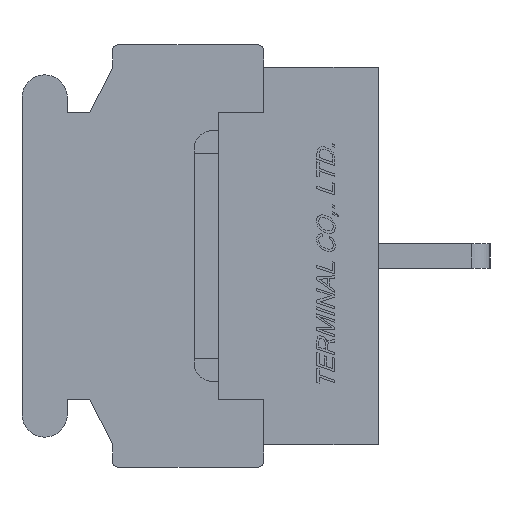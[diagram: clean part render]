
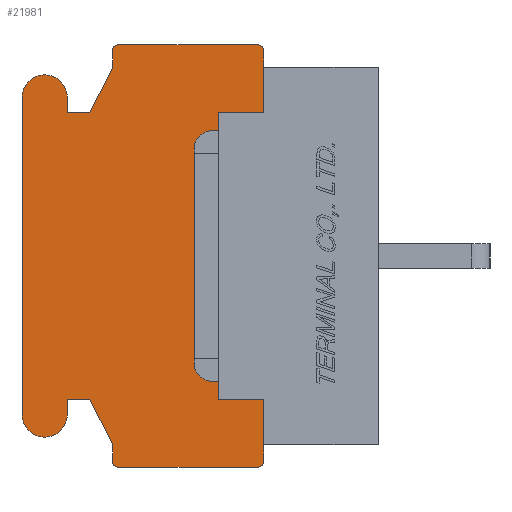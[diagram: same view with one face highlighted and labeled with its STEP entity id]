
A CAD part, left-side view. The second image highlights one B-rep face of the part: STEP entity #21981.
In plain terms, the highlighted planar face has unit normal (-1, 0, 0).
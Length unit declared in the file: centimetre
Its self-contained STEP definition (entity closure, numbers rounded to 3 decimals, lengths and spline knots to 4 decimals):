
#943=PLANE('',#35763);
#2076=VECTOR('',#23824,1.);
#2471=VECTOR('',#24352,1.);
#2474=VECTOR('',#24356,1.);
#2476=VECTOR('',#24359,1.);
#2477=VECTOR('',#24361,1.);
#2478=VECTOR('',#24363,1.);
#2479=VECTOR('',#24366,1.);
#2480=VECTOR('',#24369,1.);
#2481=VECTOR('',#24370,1.);
#2482=VECTOR('',#24371,1.);
#2483=VECTOR('',#24372,1.);
#2484=VECTOR('',#24375,1.);
#2485=VECTOR('',#24378,1.);
#2486=VECTOR('',#24379,1.);
#2487=VECTOR('',#24380,1.);
#2488=VECTOR('',#24381,1.);
#2489=VECTOR('',#24384,1.);
#2490=VECTOR('',#24387,1.);
#4506=LINE('',#29558,#2076);
#4901=LINE('',#31043,#2471);
#4904=LINE('',#31049,#2474);
#4906=LINE('',#31053,#2476);
#4907=LINE('',#31055,#2477);
#4908=LINE('',#31057,#2478);
#4909=LINE('',#31061,#2479);
#4910=LINE('',#31065,#2480);
#4911=LINE('',#31067,#2481);
#4912=LINE('',#31069,#2482);
#4913=LINE('',#31071,#2483);
#4914=LINE('',#31075,#2484);
#4915=LINE('',#31079,#2485);
#4916=LINE('',#31081,#2486);
#4917=LINE('',#31083,#2487);
#4918=LINE('',#31085,#2488);
#4919=LINE('',#31089,#2489);
#4920=LINE('',#31093,#2490);
#6875=VERTEX_POINT('',#29557);
#6876=VERTEX_POINT('',#29559);
#7210=VERTEX_POINT('',#31042);
#7211=VERTEX_POINT('',#31044);
#7212=VERTEX_POINT('',#31048);
#7213=VERTEX_POINT('',#31050);
#7214=VERTEX_POINT('',#31058);
#7215=VERTEX_POINT('',#31060);
#7216=VERTEX_POINT('',#31062);
#7217=VERTEX_POINT('',#31064);
#7218=VERTEX_POINT('',#31066);
#7219=VERTEX_POINT('',#31068);
#7220=VERTEX_POINT('',#31070);
#7221=VERTEX_POINT('',#31072);
#7222=VERTEX_POINT('',#31074);
#7223=VERTEX_POINT('',#31076);
#7224=VERTEX_POINT('',#31078);
#7225=VERTEX_POINT('',#31080);
#7226=VERTEX_POINT('',#31082);
#7227=VERTEX_POINT('',#31084);
#7228=VERTEX_POINT('',#31086);
#7229=VERTEX_POINT('',#31088);
#7230=VERTEX_POINT('',#31090);
#7231=VERTEX_POINT('',#31092);
#8578=CIRCLE('',#35764,0.02);
#8579=CIRCLE('',#35765,0.02);
#8580=CIRCLE('',#35766,0.075);
#8581=CIRCLE('',#35767,0.075);
#8582=CIRCLE('',#35768,0.02);
#8583=CIRCLE('',#35769,0.02);
#9737=EDGE_CURVE('',#6876,#6875,#4506,.T.);
#10238=EDGE_CURVE('',#7211,#7210,#4901,.T.);
#10241=EDGE_CURVE('',#7213,#7212,#4904,.T.);
#10243=EDGE_CURVE('',#7212,#6876,#4906,.T.);
#10244=EDGE_CURVE('',#6875,#7211,#4907,.T.);
#10245=EDGE_CURVE('',#7214,#7210,#4908,.T.);
#10246=EDGE_CURVE('',#7215,#7214,#8578,.T.);
#10247=EDGE_CURVE('',#7216,#7215,#4909,.T.);
#10248=EDGE_CURVE('',#7217,#7216,#8579,.T.);
#10249=EDGE_CURVE('',#7218,#7217,#4910,.T.);
#10250=EDGE_CURVE('',#7219,#7218,#4911,.T.);
#10251=EDGE_CURVE('',#7220,#7219,#4912,.T.);
#10252=EDGE_CURVE('',#7221,#7220,#4913,.T.);
#10253=EDGE_CURVE('',#7222,#7221,#8580,.T.);
#10254=EDGE_CURVE('',#7223,#7222,#4914,.T.);
#10255=EDGE_CURVE('',#7224,#7223,#8581,.T.);
#10256=EDGE_CURVE('',#7225,#7224,#4915,.T.);
#10257=EDGE_CURVE('',#7226,#7225,#4916,.T.);
#10258=EDGE_CURVE('',#7227,#7226,#4917,.T.);
#10259=EDGE_CURVE('',#7228,#7227,#4918,.T.);
#10260=EDGE_CURVE('',#7229,#7228,#8582,.T.);
#10261=EDGE_CURVE('',#7230,#7229,#4919,.T.);
#10262=EDGE_CURVE('',#7231,#7230,#8583,.T.);
#10263=EDGE_CURVE('',#7213,#7231,#4920,.T.);
#14814=ORIENTED_EDGE('',*,*,#10241,.T.);
#14815=ORIENTED_EDGE('',*,*,#10243,.T.);
#14816=ORIENTED_EDGE('',*,*,#9737,.T.);
#14817=ORIENTED_EDGE('',*,*,#10244,.T.);
#14818=ORIENTED_EDGE('',*,*,#10238,.T.);
#14819=ORIENTED_EDGE('',*,*,#10245,.F.);
#14820=ORIENTED_EDGE('',*,*,#10246,.F.);
#14821=ORIENTED_EDGE('',*,*,#10247,.F.);
#14822=ORIENTED_EDGE('',*,*,#10248,.F.);
#14823=ORIENTED_EDGE('',*,*,#10249,.F.);
#14824=ORIENTED_EDGE('',*,*,#10250,.F.);
#14825=ORIENTED_EDGE('',*,*,#10251,.F.);
#14826=ORIENTED_EDGE('',*,*,#10252,.F.);
#14827=ORIENTED_EDGE('',*,*,#10253,.F.);
#14828=ORIENTED_EDGE('',*,*,#10254,.F.);
#14829=ORIENTED_EDGE('',*,*,#10255,.F.);
#14830=ORIENTED_EDGE('',*,*,#10256,.F.);
#14831=ORIENTED_EDGE('',*,*,#10257,.F.);
#14832=ORIENTED_EDGE('',*,*,#10258,.F.);
#14833=ORIENTED_EDGE('',*,*,#10259,.F.);
#14834=ORIENTED_EDGE('',*,*,#10260,.F.);
#14835=ORIENTED_EDGE('',*,*,#10261,.F.);
#14836=ORIENTED_EDGE('',*,*,#10262,.F.);
#14837=ORIENTED_EDGE('',*,*,#10263,.F.);
#19373=EDGE_LOOP('',(#14814,#14815,#14816,#14817,#14818,#14819,#14820,#14821,
#14822,#14823,#14824,#14825,#14826,#14827,#14828,#14829,#14830,#14831,#14832,
#14833,#14834,#14835,#14836,#14837));
#20703=FACE_BOUND('',#19373,.T.);
#21981=ADVANCED_FACE('',(#20703),#943,.F.);
#23824=DIRECTION('',(0.,0.,1.));
#24352=DIRECTION('',(0.,0.,1.));
#24356=DIRECTION('',(0.,0.,1.));
#24359=DIRECTION('',(0.,1.,0.));
#24361=DIRECTION('',(0.,-1.,0.));
#24362=DIRECTION('',(1.,0.,0.));
#24363=DIRECTION('',(0.,0.,-1.));
#24364=DIRECTION('',(1.,0.,0.));
#24365=DIRECTION('',(0.,0.,-0.02));
#24366=DIRECTION('',(0.,-1.,0.));
#24367=DIRECTION('',(1.,0.,0.));
#24368=DIRECTION('',(0.,0.,-0.02));
#24369=DIRECTION('',(0.,0.,1.));
#24370=DIRECTION('',(0.,-0.447,0.894));
#24371=DIRECTION('',(0.,-1.,0.));
#24372=DIRECTION('',(0.,0.,-1.));
#24373=DIRECTION('',(1.,0.,0.));
#24374=DIRECTION('',(0.,0.,-0.075));
#24375=DIRECTION('',(0.,0.,1.));
#24376=DIRECTION('',(1.,0.,0.));
#24377=DIRECTION('',(0.,0.,-0.075));
#24378=DIRECTION('',(0.,0.,-1.));
#24379=DIRECTION('',(0.,1.,0.));
#24380=DIRECTION('',(0.,0.447,0.894));
#24381=DIRECTION('',(0.,0.,1.));
#24382=DIRECTION('',(1.,0.,0.));
#24383=DIRECTION('',(0.,0.,-0.02));
#24384=DIRECTION('',(0.,1.,0.));
#24385=DIRECTION('',(1.,0.,0.));
#24386=DIRECTION('',(0.,0.,-0.02));
#24387=DIRECTION('',(0.,0.,-1.));
#29557=CARTESIAN_POINT('',(-0.762,0.53,0.475));
#29558=CARTESIAN_POINT('',(-0.762,0.53,0.));
#29559=CARTESIAN_POINT('',(-0.762,0.53,-0.475));
#31042=CARTESIAN_POINT('',(-0.762,0.38,0.625));
#31043=CARTESIAN_POINT('',(-0.762,0.38,0.275));
#31044=CARTESIAN_POINT('',(-0.762,0.38,0.475));
#31048=CARTESIAN_POINT('',(-0.762,0.38,-0.475));
#31049=CARTESIAN_POINT('',(-0.762,0.38,-0.275));
#31050=CARTESIAN_POINT('',(-0.762,0.38,-0.625));
#31053=CARTESIAN_POINT('',(-0.762,0.5304,-0.475));
#31055=CARTESIAN_POINT('',(-0.762,0.5304,0.475));
#31056=CARTESIAN_POINT('',(-0.762,0.6059,0.));
#31057=CARTESIAN_POINT('',(-0.762,0.38,0.68));
#31058=CARTESIAN_POINT('',(-0.762,0.38,0.68));
#31059=CARTESIAN_POINT('',(-0.762,0.4,0.68));
#31060=CARTESIAN_POINT('',(-0.762,0.4,0.7));
#31061=CARTESIAN_POINT('',(-0.762,0.86,0.7));
#31062=CARTESIAN_POINT('',(-0.762,0.86,0.7));
#31063=CARTESIAN_POINT('',(-0.762,0.86,0.68));
#31064=CARTESIAN_POINT('',(-0.762,0.88,0.68));
#31065=CARTESIAN_POINT('',(-0.762,0.88,0.625));
#31066=CARTESIAN_POINT('',(-0.762,0.88,0.625));
#31067=CARTESIAN_POINT('',(-0.762,0.955,0.475));
#31068=CARTESIAN_POINT('',(-0.762,0.955,0.475));
#31069=CARTESIAN_POINT('',(-0.762,1.03,0.475));
#31070=CARTESIAN_POINT('',(-0.762,1.03,0.475));
#31071=CARTESIAN_POINT('',(-0.762,1.03,0.525));
#31072=CARTESIAN_POINT('',(-0.762,1.03,0.525));
#31073=CARTESIAN_POINT('',(-0.762,1.105,0.525));
#31074=CARTESIAN_POINT('',(-0.762,1.18,0.525));
#31075=CARTESIAN_POINT('',(-0.762,1.18,-0.525));
#31076=CARTESIAN_POINT('',(-0.762,1.18,-0.525));
#31077=CARTESIAN_POINT('',(-0.762,1.105,-0.525));
#31078=CARTESIAN_POINT('',(-0.762,1.03,-0.525));
#31079=CARTESIAN_POINT('',(-0.762,1.03,-0.475));
#31080=CARTESIAN_POINT('',(-0.762,1.03,-0.475));
#31081=CARTESIAN_POINT('',(-0.762,0.955,-0.475));
#31082=CARTESIAN_POINT('',(-0.762,0.955,-0.475));
#31083=CARTESIAN_POINT('',(-0.762,0.88,-0.625));
#31084=CARTESIAN_POINT('',(-0.762,0.88,-0.625));
#31085=CARTESIAN_POINT('',(-0.762,0.88,-0.68));
#31086=CARTESIAN_POINT('',(-0.762,0.88,-0.68));
#31087=CARTESIAN_POINT('',(-0.762,0.86,-0.68));
#31088=CARTESIAN_POINT('',(-0.762,0.86,-0.7));
#31089=CARTESIAN_POINT('',(-0.762,0.4,-0.7));
#31090=CARTESIAN_POINT('',(-0.762,0.4,-0.7));
#31091=CARTESIAN_POINT('',(-0.762,0.4,-0.68));
#31092=CARTESIAN_POINT('',(-0.762,0.38,-0.68));
#31093=CARTESIAN_POINT('',(-0.762,0.38,-0.625));
#35763=AXIS2_PLACEMENT_3D('',#31056,#24362,$);
#35764=AXIS2_PLACEMENT_3D('',#31059,#24364,#24365);
#35765=AXIS2_PLACEMENT_3D('',#31063,#24367,#24368);
#35766=AXIS2_PLACEMENT_3D('',#31073,#24373,#24374);
#35767=AXIS2_PLACEMENT_3D('',#31077,#24376,#24377);
#35768=AXIS2_PLACEMENT_3D('',#31087,#24382,#24383);
#35769=AXIS2_PLACEMENT_3D('',#31091,#24385,#24386);
